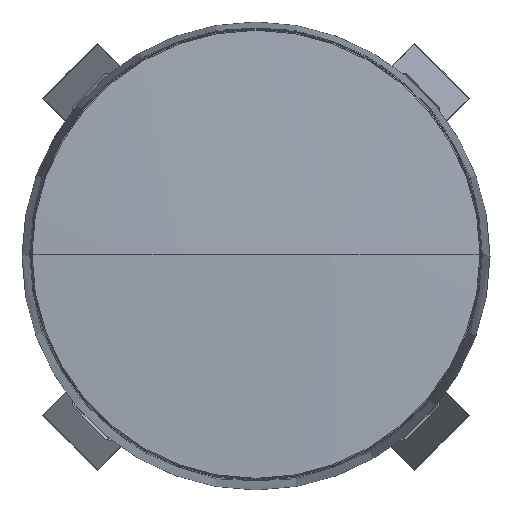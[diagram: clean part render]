
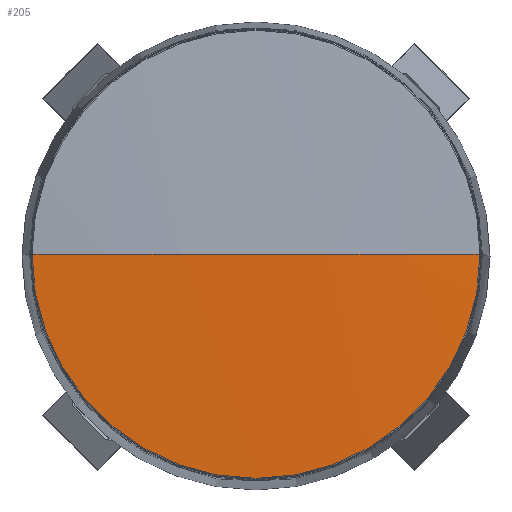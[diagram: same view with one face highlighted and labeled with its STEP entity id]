
A CAD part, top view. The second image highlights one B-rep face of the part: STEP entity #205.
In plain terms, the highlighted spherical face has radius 425.223 mm.
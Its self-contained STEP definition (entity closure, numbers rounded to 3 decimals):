
#43=CARTESIAN_POINT('',(0.,0.,-418.223));
#44=DIRECTION('',(0.,-1.,0.));
#45=DIRECTION('',(0.,0.,1.));
#46=AXIS2_PLACEMENT_3D('',#43,#44,#45);
#48=CARTESIAN_POINT('',(0.,0.,-418.223));
#49=DIRECTION('',(0.,1.,0.));
#50=DIRECTION('',(0.,0.,1.));
#51=AXIS2_PLACEMENT_3D('',#48,#49,#50);
#86=CARTESIAN_POINT('',(0.,0.,6.013));
#87=DIRECTION('',(0.,0.,-1.));
#88=DIRECTION('',(1.,0.,0.));
#89=AXIS2_PLACEMENT_3D('',#86,#87,#88);
#132=CARTESIAN_POINT('',(0.,0.,7.));
#133=CARTESIAN_POINT('',(28.962,0.,6.013));
#134=VERTEX_POINT('',#132);
#135=VERTEX_POINT('',#133);
#136=CARTESIAN_POINT('',(-28.962,0.,6.013));
#137=VERTEX_POINT('',#136);
#194=CARTESIAN_POINT('',(0.,0.,-418.223));
#195=DIRECTION('',(0.,0.,-1.));
#196=DIRECTION('',(-1.,0.,0.));
#197=AXIS2_PLACEMENT_3D('',#194,#195,#196);
#198=SPHERICAL_SURFACE('',#197,425.223);
#200=ORIENTED_EDGE('',*,*,#199,.T.);
#201=ORIENTED_EDGE('',*,*,#189,.F.);
#202=ORIENTED_EDGE('',*,*,#187,.T.);
#203=EDGE_LOOP('',(#200,#201,#202));
#204=FACE_OUTER_BOUND('',#203,.F.);
#205=ADVANCED_FACE('',(#204),#198,.T.);
#47=CIRCLE('',#46,425.223);
#52=CIRCLE('',#51,425.223);
#90=CIRCLE('',#89,28.962);
#187=EDGE_CURVE('',#134,#135,#52,.T.);
#189=EDGE_CURVE('',#134,#137,#47,.T.);
#199=EDGE_CURVE('',#135,#137,#90,.T.);
